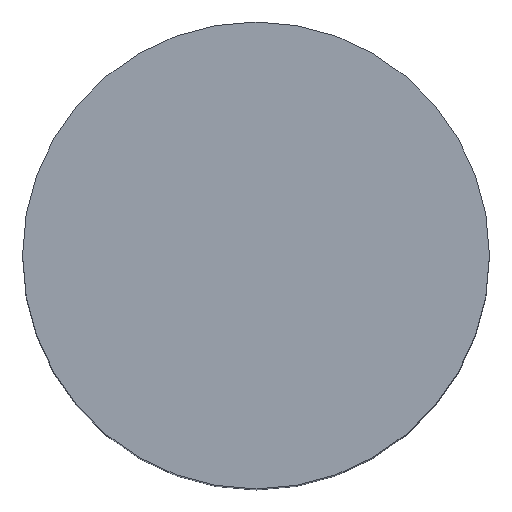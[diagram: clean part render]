
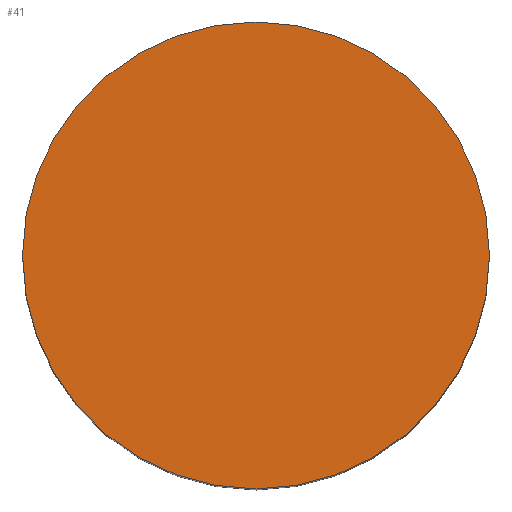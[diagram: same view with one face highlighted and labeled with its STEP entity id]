
A CAD part, top view. The second image highlights one B-rep face of the part: STEP entity #41.
In plain terms, the highlighted planar face has unit normal (0, 0, 1).
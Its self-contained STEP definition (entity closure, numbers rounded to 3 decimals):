
#16=PLANE('',#60);
#19=FACE_OUTER_BOUND('',#22,.T.);
#22=EDGE_LOOP('',(#37));
#25=CIRCLE('',#57,4.763);
#27=VERTEX_POINT('',#76);
#29=EDGE_CURVE('',#27,#27,#25,.T.);
#37=ORIENTED_EDGE('',*,*,#29,.T.);
#41=ADVANCED_FACE('',(#19),#16,.T.);
#57=AXIS2_PLACEMENT_3D('',#77,#65,#66);
#60=AXIS2_PLACEMENT_3D('',#82,#72,#73);
#65=DIRECTION('center_axis',(0.,0.,1.));
#66=DIRECTION('ref_axis',(1.,0.,0.));
#72=DIRECTION('center_axis',(0.,0.,1.));
#73=DIRECTION('ref_axis',(1.,0.,0.));
#76=CARTESIAN_POINT('',(85.238,65.,155.));
#77=CARTESIAN_POINT('Origin',(90.,65.,155.));
#82=CARTESIAN_POINT('Origin',(90.,65.,155.));
